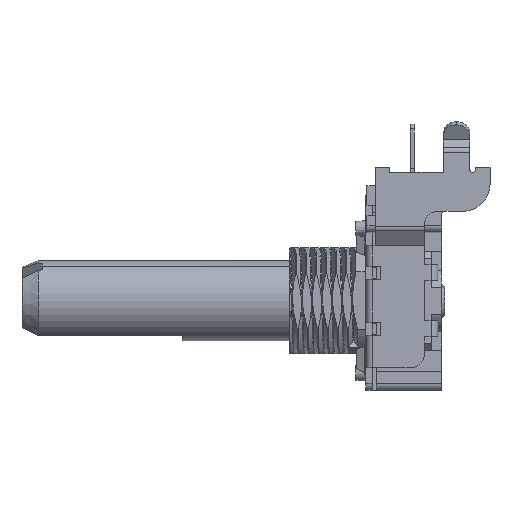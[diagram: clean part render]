
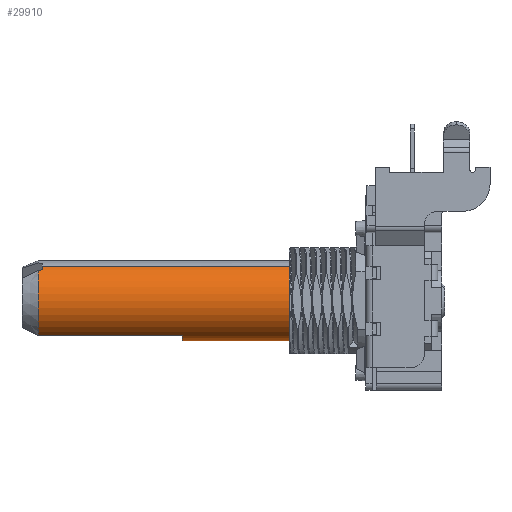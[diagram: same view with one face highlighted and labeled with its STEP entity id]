
A CAD part, left-side view. The second image highlights one B-rep face of the part: STEP entity #29910.
In plain terms, the highlighted cylindrical face has radius 3 mm (diameter 6 mm), a partial arc.
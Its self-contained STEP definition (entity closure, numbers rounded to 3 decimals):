
#269 = CARTESIAN_POINT ( 'NONE',  ( 0.517, 27.4, -2.955 ) ) ;
#372 = DIRECTION ( 'NONE',  ( 0., -1., 0. ) ) ;
#809 = DIRECTION ( 'NONE',  ( 0., 1., 0. ) ) ;
#1488 = VERTEX_POINT ( 'NONE', #18416 ) ;
#1926 = VERTEX_POINT ( 'NONE', #34025 ) ;
#2041 = EDGE_CURVE ( 'NONE', #6522, #8932, #7938, .T. ) ;
#2518 = CYLINDRICAL_SURFACE ( 'NONE', #5025, 3. ) ;
#2689 = DIRECTION ( 'NONE',  ( 0., 0., -1. ) ) ;
#2953 = ORIENTED_EDGE ( 'NONE', *, *, #9320, .F. ) ;
#4329 = DIRECTION ( 'NONE',  ( 0., 0., 1. ) ) ;
#4332 = AXIS2_PLACEMENT_3D ( 'NONE', #14896, #33906, #25717 ) ;
#4350 = CARTESIAN_POINT ( 'NONE',  ( 0., 27.3, -3. ) ) ;
#4406 = CARTESIAN_POINT ( 'NONE',  ( 0., 16.8, 3. ) ) ;
#5025 = AXIS2_PLACEMENT_3D ( 'NONE', #18980, #372, #2689 ) ;
#5464 = CIRCLE ( 'NONE', #4332, 3. ) ;
#6060 = CIRCLE ( 'NONE', #7749, 3. ) ;
#6379 = CIRCLE ( 'NONE', #26182, 3. ) ;
#6522 = VERTEX_POINT ( 'NONE', #18997 ) ;
#7153 = VERTEX_POINT ( 'NONE', #4406 ) ;
#7749 = AXIS2_PLACEMENT_3D ( 'NONE', #15196, #33700, #28700 ) ;
#7855 = EDGE_CURVE ( 'NONE', #26147, #1926, #6379, .T. ) ;
#7938 =( BOUNDED_CURVE ( )  B_SPLINE_CURVE ( 3, ( #16239, #29741, #269, #10385 ),
 .UNSPECIFIED., .F., .F. ) 
 B_SPLINE_CURVE_WITH_KNOTS ( ( 4, 4 ),
 ( 4.528, 4.545 ),
 .UNSPECIFIED. ) 
 CURVE ( )  GEOMETRIC_REPRESENTATION_ITEM ( )  RATIONAL_B_SPLINE_CURVE ( ( 1., 1., 1., 1. ) ) 
 REPRESENTATION_ITEM ( '' )  );
#8006 = FACE_OUTER_BOUND ( 'NONE', #23797, .T. ) ;
#8336 = DIRECTION ( 'NONE',  ( 0., 0., 1. ) ) ;
#8854 = ORIENTED_EDGE ( 'NONE', *, *, #7855, .T. ) ;
#8932 = VERTEX_POINT ( 'NONE', #34727 ) ;
#9123 = CARTESIAN_POINT ( 'NONE',  ( 2.598, 16.8, 1.5 ) ) ;
#9320 = EDGE_CURVE ( 'NONE', #20656, #6522, #23954, .T. ) ;
#10378 = AXIS2_PLACEMENT_3D ( 'NONE', #22786, #33982, #4329 ) ;
#10385 = CARTESIAN_POINT ( 'NONE',  ( 0.5, 27.3, -2.958 ) ) ;
#11829 = DIRECTION ( 'NONE',  ( 0., -1., 0. ) ) ;
#11993 = EDGE_CURVE ( 'NONE', #7153, #1488, #6060, .T. ) ;
#12881 = VECTOR ( 'NONE', #23378, 1000. ) ;
#13121 = ORIENTED_EDGE ( 'NONE', *, *, #21402, .F. ) ;
#14430 = ORIENTED_EDGE ( 'NONE', *, *, #11993, .F. ) ;
#14896 = CARTESIAN_POINT ( 'NONE',  ( 0., 27.3, 0. ) ) ;
#15196 = CARTESIAN_POINT ( 'NONE',  ( 0., 16.8, 0. ) ) ;
#15690 = EDGE_CURVE ( 'NONE', #8932, #32596, #5464, .T. ) ;
#16239 = CARTESIAN_POINT ( 'NONE',  ( 0.55, 27.6, -2.949 ) ) ;
#17103 = LINE ( 'NONE', #9123, #31180 ) ;
#17713 = ORIENTED_EDGE ( 'NONE', *, *, #15690, .F. ) ;
#18063 = VECTOR ( 'NONE', #11829, 1000. ) ;
#18416 = CARTESIAN_POINT ( 'NONE',  ( 2.598, 16.8, 1.5 ) ) ;
#18613 = DIRECTION ( 'NONE',  ( 0., 1., 0. ) ) ;
#18797 = CARTESIAN_POINT ( 'NONE',  ( 0., 2.5, 0. ) ) ;
#18980 = CARTESIAN_POINT ( 'NONE',  ( 0., 27.6, 0. ) ) ;
#18997 = CARTESIAN_POINT ( 'NONE',  ( 0.55, 27.6, -2.949 ) ) ;
#19569 = EDGE_CURVE ( 'NONE', #32596, #1926, #25309, .T. ) ;
#20206 = CARTESIAN_POINT ( 'NONE',  ( 0., 2.5, 3. ) ) ;
#20656 = VERTEX_POINT ( 'NONE', #26259 ) ;
#20878 = ORIENTED_EDGE ( 'NONE', *, *, #2041, .F. ) ;
#21402 = EDGE_CURVE ( 'NONE', #1488, #20656, #17103, .T. ) ;
#22130 = ORIENTED_EDGE ( 'NONE', *, *, #19569, .F. ) ;
#22786 = CARTESIAN_POINT ( 'NONE',  ( 0., 27.6, 0. ) ) ;
#23378 = DIRECTION ( 'NONE',  ( 0., -1., 0. ) ) ;
#23797 = EDGE_LOOP ( 'NONE', ( #14430, #32807, #8854, #22130, #17713, #20878, #2953, #13121 ) ) ;
#23954 = CIRCLE ( 'NONE', #10378, 3. ) ;
#24254 = LINE ( 'NONE', #32467, #12881 ) ;
#25309 = LINE ( 'NONE', #33152, #18063 ) ;
#25717 = DIRECTION ( 'NONE',  ( 0., 0., -1. ) ) ;
#26147 = VERTEX_POINT ( 'NONE', #20206 ) ;
#26182 = AXIS2_PLACEMENT_3D ( 'NONE', #18797, #18613, #8336 ) ;
#26259 = CARTESIAN_POINT ( 'NONE',  ( 2.598, 27.6, 1.5 ) ) ;
#28700 = DIRECTION ( 'NONE',  ( 0., 0., 1. ) ) ;
#28718 = EDGE_CURVE ( 'NONE', #7153, #26147, #24254, .T. ) ;
#29741 = CARTESIAN_POINT ( 'NONE',  ( 0.533, 27.5, -2.952 ) ) ;
#29910 = ADVANCED_FACE ( 'NONE', ( #8006 ), #2518, .T. ) ;
#31180 = VECTOR ( 'NONE', #809, 1000. ) ;
#32467 = CARTESIAN_POINT ( 'NONE',  ( 0., 27.6, 3. ) ) ;
#32596 = VERTEX_POINT ( 'NONE', #4350 ) ;
#32807 = ORIENTED_EDGE ( 'NONE', *, *, #28718, .T. ) ;
#33152 = CARTESIAN_POINT ( 'NONE',  ( 0., 27.6, -3. ) ) ;
#33700 = DIRECTION ( 'NONE',  ( 0., 1., 0. ) ) ;
#33906 = DIRECTION ( 'NONE',  ( 0., 1., 0. ) ) ;
#33982 = DIRECTION ( 'NONE',  ( 0., 1., 0. ) ) ;
#34025 = CARTESIAN_POINT ( 'NONE',  ( 0., 2.5, -3. ) ) ;
#34727 = CARTESIAN_POINT ( 'NONE',  ( 0.5, 27.3, -2.958 ) ) ;
